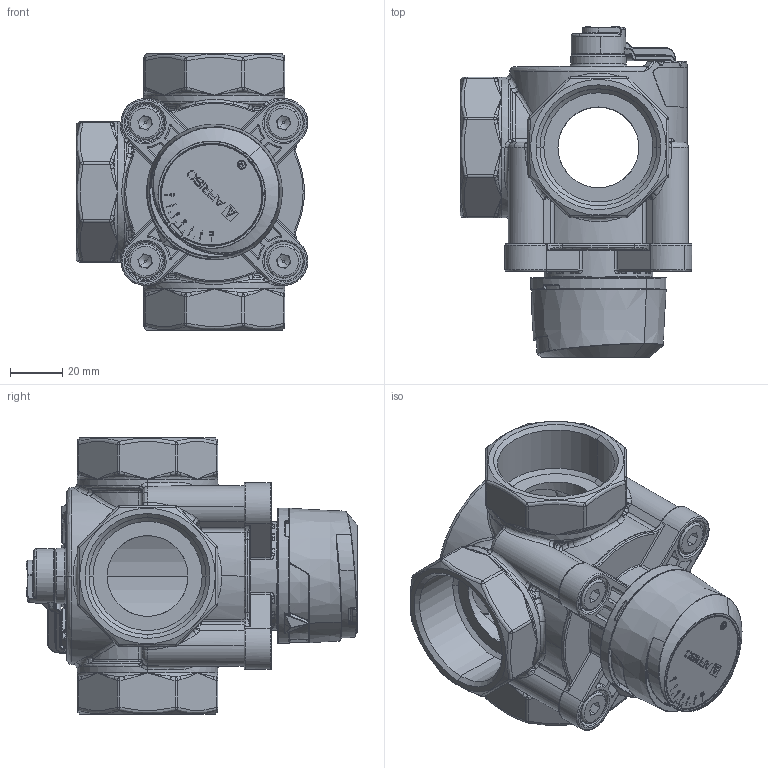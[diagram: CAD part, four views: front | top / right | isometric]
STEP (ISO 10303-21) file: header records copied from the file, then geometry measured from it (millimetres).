
FILE_DESCRIPTION (( 'STEP AP214' ), '1' );
FILE_NAME ('1338620.STP', '2023-10-05T12:31:11', ( '' ), ( '' ), 'SwSTEP 2.0', 'SolidWorks 2022', '' );
FILE_SCHEMA (( 'AUTOMOTIVE_DESIGN' ));
Length unit declared in the file: millimetre
Products named in the file (23): 05 00 000275_Skalenscheibe Mischerbet.beids.bedr. L_R; Schild DN40_DN50; 907984 8020_Zylinderschr. DIN 7984 - M8x20_0_4; 05 01 001104_Geh_X_E4use 3-W ARV-Vario DN40; 907984 8020_Zylinderschr. DIN 7984 - M8x20_0_2; Bedruckung R; Baugruppe Mischerbet. _AFRISO-PL__Baugruppe; 1338620; 05 01 001119_Verstellhebel DN40_DN50; 3-Wege-Mischer ARV-Vario DN40_Baugruppe; Bedruckung_R_X_FCckseite; 05 01 001123_Lagerscheibe; 05 01 001122_Aufnahmesockel DN40_DN50; 05 00 000271_Sockel Mischerbet. _AFRISO-PL_; Bedruckung L; 907984 8020_Zylinderschr. DIN 7984 - M8x20_0; torx_socket_countersunk_flat_head_M3x14; Bedruckung_Vorderseite; 907984 8020_Zylinderschr. DIN 7984 - M8x20_0_3; 05 00 000276_Handrad Mischerbet. GE_X_C4NDERT
Assembly tree (22 placements, depth 6):
  1338620
    3-Wege-Mischer ARV-Vario DN40_Baugruppe
      Baugruppe Mischerbet. _AFRISO-PL__Baugruppe
        05 00 000271_Sockel Mischerbet. _AFRISO-PL_
        05 00 000276_Handrad Mischerbet. GE_X_C4NDERT
        05 00 000275_Skalenscheibe Mischerbet.beids.bedr. L_R
          05 00 000275_Skalenscheibe Mischerbet.beids.bedr. L_R
          Bedruckung_Vorderseite
            Bedruckung_Vorderseite
            Bedruckung L
          Bedruckung_R_X_FCckseite
            Bedruckung_R_X_FCckseite
            Bedruckung R
      Schild DN40_DN50
      05 01 001123_Lagerscheibe
      05 01 001119_Verstellhebel DN40_DN50
      907984 8020_Zylinderschr. DIN 7984 - M8x20_0
      907984 8020_Zylinderschr. DIN 7984 - M8x20_0_2
      907984 8020_Zylinderschr. DIN 7984 - M8x20_0_3
      907984 8020_Zylinderschr. DIN 7984 - M8x20_0_4
      05 01 001122_Aufnahmesockel DN40_DN50
      05 01 001104_Geh_X_E4use 3-W ARV-Vario DN40
    torx_socket_countersunk_flat_head_M3x14
Bounding box: 88.82 x 126.9 x 106 mm (x, y, z)
Volume: 193554.6 mm3; surface area: 118134.6 mm2
Topology: 71 solids, 71 shells, 5864 faces, 15601 edges, 9640 vertices
Faces by surface type: plane 3150, bspline 1493, cylinder 978, cone 239, torus 4
Entity records: 478934 total; most frequent: CARTESIAN_POINT 306871, ORIENTED_EDGE 30658, DIRECTION 23952, EDGE_CURVE 15329, VERTEX_POINT 9640, LINE 9352, VECTOR 9352, AXIS2_PLACEMENT_3D 7300
